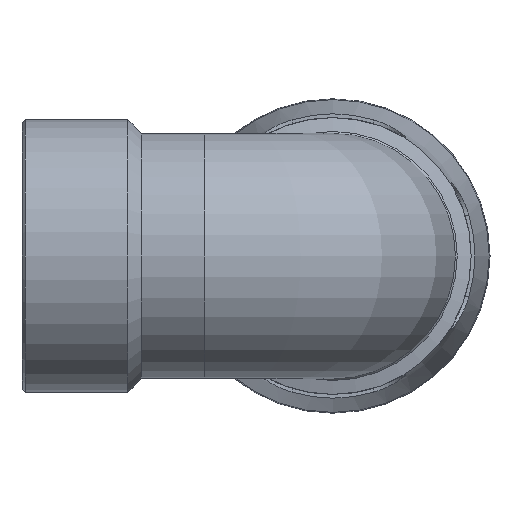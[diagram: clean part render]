
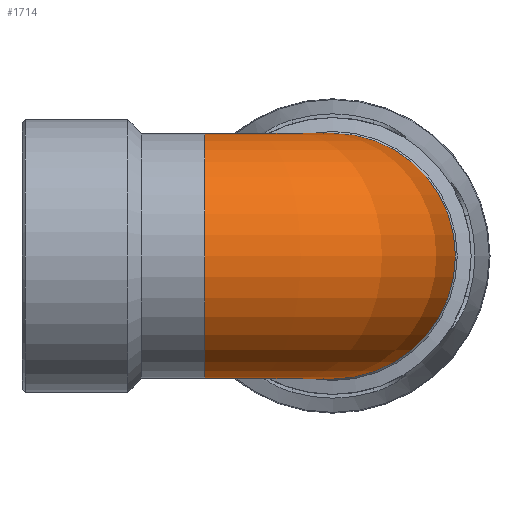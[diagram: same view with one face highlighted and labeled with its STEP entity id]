
A CAD part, left-side view. The second image highlights one B-rep face of the part: STEP entity #1714.
In plain terms, the highlighted toroidal (fillet/blend) face has major radius 34.626 mm and minor radius 33.144 mm.
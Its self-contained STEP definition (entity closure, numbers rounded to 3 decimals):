
#356=FACE_BOUND('',#509,.T.);
#384=FACE_OUTER_BOUND('',#508,.T.);
#508=EDGE_LOOP('',(#1160));
#509=EDGE_LOOP('',(#1161));
#615=CIRCLE('',#1814,33.144);
#621=CIRCLE('',#1824,33.144);
#710=VERTEX_POINT('',#2509);
#716=VERTEX_POINT('',#2525);
#869=EDGE_CURVE('',#710,#710,#615,.T.);
#875=EDGE_CURVE('',#716,#716,#621,.T.);
#1160=ORIENTED_EDGE('',*,*,#869,.F.);
#1161=ORIENTED_EDGE('',*,*,#875,.T.);
#1586=TOROIDAL_SURFACE('',#1868,34.626,33.144);
#1714=ADVANCED_FACE('',(#384,#356),#1586,.T.);
#1814=AXIS2_PLACEMENT_3D('',#2510,#2025,#2026);
#1824=AXIS2_PLACEMENT_3D('',#2526,#2045,#2046);
#1868=AXIS2_PLACEMENT_3D('',#2604,#2133,#2134);
#2025=DIRECTION('center_axis',(1.,0.,0.));
#2026=DIRECTION('ref_axis',(0.,-1.,0.));
#2045=DIRECTION('center_axis',(0.,-1.,0.));
#2046=DIRECTION('ref_axis',(-1.,0.,0.));
#2133=DIRECTION('center_axis',(0.,0.,1.));
#2134=DIRECTION('ref_axis',(1.,0.,0.));
#2509=CARTESIAN_POINT('',(34.626,33.144,0.));
#2510=CARTESIAN_POINT('Origin',(34.626,0.,0.));
#2525=CARTESIAN_POINT('',(33.144,34.626,0.));
#2526=CARTESIAN_POINT('Origin',(0.,34.626,0.));
#2604=CARTESIAN_POINT('Origin',(34.626,34.626,0.));
